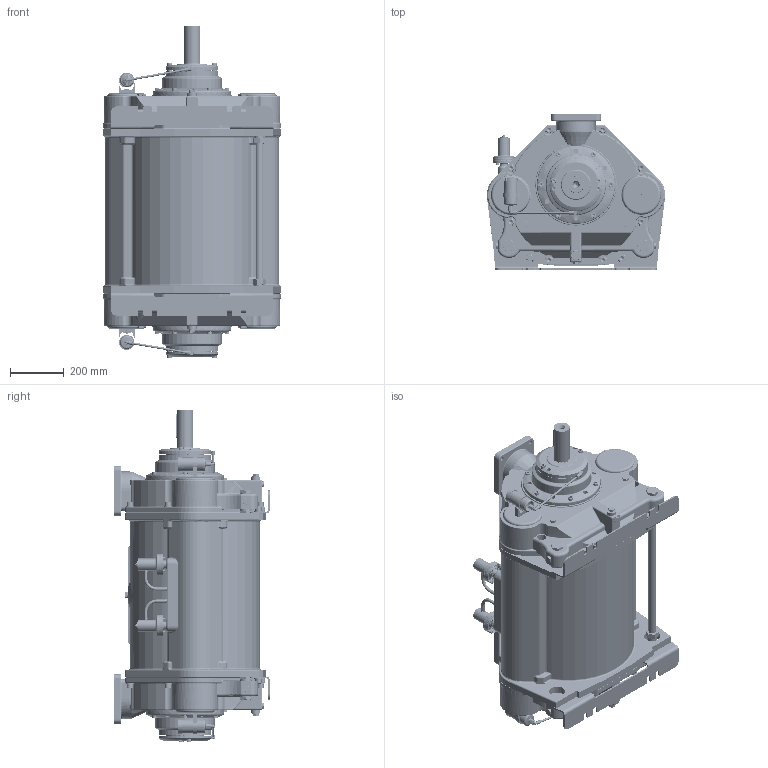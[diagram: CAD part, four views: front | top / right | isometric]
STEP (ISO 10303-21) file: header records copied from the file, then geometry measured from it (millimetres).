
FILE_DESCRIPTION(/* description */ (''),/* implementation_level */ '2;1');
FILE_NAME(/* name */ '1700030C.stp',/* time_stamp */ '2025-09-23T11:32:14+02:00',/* author */ ('JJ'),/* organization */ (''),/* preprocessor_version */ 'ST-DEVELOPER v20',/* originating_system */ 'Autodesk Inventor 2025',/* authorisation */ '');
FILE_SCHEMA (('AUTOMOTIVE_DESIGN { 1 0 10303 214 3 1 1 }'));
Length unit declared in the file: millimetre
Products named in the file (1): 1700030
Bounding box: 662.74 x 578.19 x 1233.7 mm (x, y, z)
Volume: 201575592.8 mm3; surface area: 3417258.4 mm2
Topology: 7 solids, 9 shells, 4845 faces, 12219 edges, 7709 vertices
Faces by surface type: plane 1899, cylinder 1182, bspline 927, torus 417, cone 392, sphere 28
Full cylindrical faces by diameter (mm): 1.5 x16, 3.2 x4, 3.3 x4, 3.5 x18, 4 x2, 4.134 x4, 4.92 x8, 5 x2, 5.3 x2, 6 x11, 6.1 x2, 6.4 x2, 8 x13, 8.5 x2, 8.57 x2, 9.2 x2, 9.7 x2, 9.8 x4, 10 x14, 10.106 x12, 12 x8, 13 x8, 13.5 x4, 13.84 x8, 14.95 x2, 15 x4, 16.662 x2, 17.29 x1, 17.5 x12, 18 x20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
Entity records: 163370 total; most frequent: CARTESIAN_POINT 48593, ORIENTED_EDGE 24192, DIRECTION 21148, EDGE_CURVE 12096, AXIS2_PLACEMENT_3D 7880, VERTEX_POINT 7709, EDGE_LOOP 5439, LINE 5388
